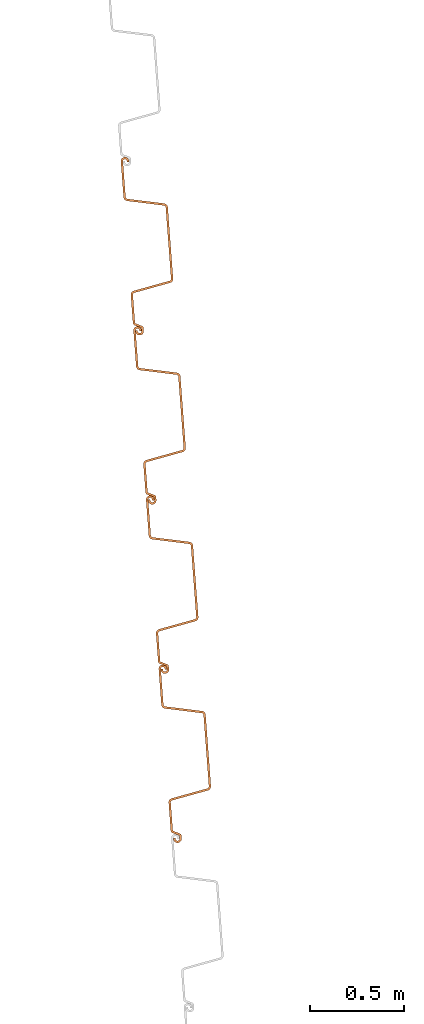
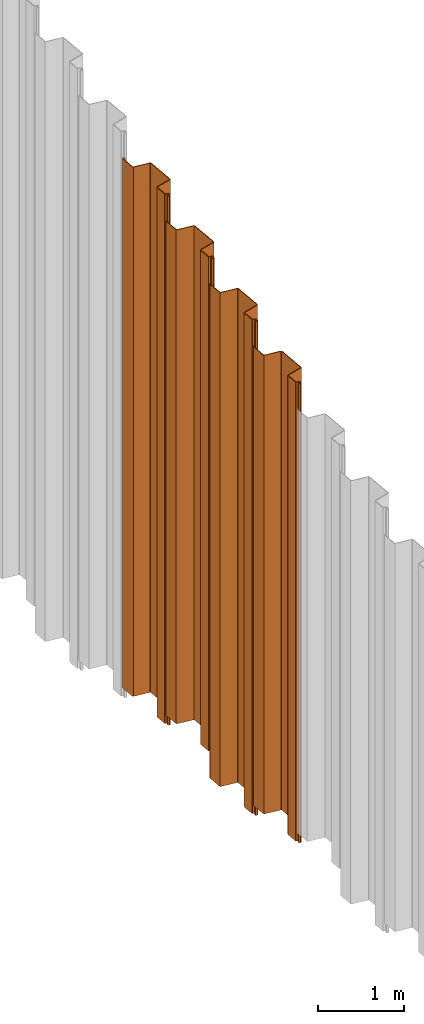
# One storey, part 3 of 12: 4 proxies.
"""IFC2X3 building model written with IfcOpenShell, lengths in millimetres."""

import ifcopenshell
import ifcopenshell.guid

model = None  # the IFC model being written
_history = None  # IfcOwnerHistory: only IFC2X3 demands one
_inside = {}  # id of a spatial element -> (the spatial element, [elements in it])
_under = {}  # id of a project, library or spatial element -> (it, [spatial elements below it])
_declared = {}  # id of a project -> (the project, [libraries it declares])
_typed = {}  # id of a type object -> (the type object, [elements of that type])
_made_of = {}  # id of a material, layer set ... -> (it, [elements and type objects made of it])


def new_model(schema):
    """Start an empty IFC model of exactly this schema.

    Asked for "IFC4X3", IfcOpenShell would pick the latest addendum, in which some entities
    have other attributes; the version numbers below select the first issue.
    IFC2X3 requires an IfcOwnerHistory on every rooted entity: one is made here for all.
    """
    global model, _history
    if schema == "IFC4X3":
        model = ifcopenshell.file(schema_version=(4, 3, 0, 0))
    else:
        model = ifcopenshell.file(schema=schema)
    _inside.clear()
    _under.clear()
    _declared.clear()
    _typed.clear()
    _made_of.clear()
    _history = None
    if model.schema == "IFC2X3":
        org = make("IfcOrganization", Name="unknown")
        user = make(
            "IfcPersonAndOrganization",
            ThePerson=make("IfcPerson", FamilyName="unknown"),
            TheOrganization=org,
        )
        app = make(
            "IfcApplication",
            ApplicationDeveloper=org,
            Version="unknown",
            ApplicationFullName="unknown",
            ApplicationIdentifier="unknown",
        )
        _history = make(
            "IfcOwnerHistory",
            OwningUser=user,
            OwningApplication=app,
            ChangeAction="ADDED",
            CreationDate=0,
        )
    return model


def make(cls, **values):
    """One entity of the class cls with the attributes given. An attribute that is None is left unset."""
    return model.create_entity(
        cls, **{name: value for name, value in values.items() if value is not None}
    )


def entity(cls, *values):
    """Any entity or typed value of the class cls, its attributes in the order of the schema. None: left unset."""
    e = model.create_entity(cls)
    for i, value in enumerate(values):
        if value is not None:
            e[i] = value
    return e


def rooted(cls, **values):
    """An entity with a GlobalId (a new one), such as an element, a storey or a relation."""
    return make(cls, GlobalId=ifcopenshell.guid.new(), OwnerHistory=_history, **values)


def si_unit(unit_type, name, prefix=None):
    """IfcSIUnit, for example si_unit("LENGTHUNIT", "METRE", prefix="MILLI")."""
    return make("IfcSIUnit", UnitType=unit_type, Prefix=prefix, Name=name)


def converted_unit(unit_type, name, factor, base, dimensions=None, offset=None):
    """IfcConversionBasedUnit, such as the inch: factor (a typed value) times the base unit."""
    return make(
        "IfcConversionBasedUnit"
        if offset is None
        else "IfcConversionBasedUnitWithOffset",
        ConversionOffset=offset,
        Dimensions=None
        if dimensions is None
        else entity("IfcDimensionalExponents", *dimensions),
        UnitType=unit_type,
        Name=name,
        ConversionFactor=make(
            "IfcMeasureWithUnit", ValueComponent=factor, UnitComponent=base
        ),
    )


def derived_unit(unit_type, elements):
    """IfcDerivedUnit: a product of units, each with its exponent."""
    return make(
        "IfcDerivedUnit",
        Elements=[
            make("IfcDerivedUnitElement", Unit=unit, Exponent=power)
            for unit, power in elements
        ],
        UnitType=unit_type,
    )


def assignment(units):
    """IfcUnitAssignment: the units of a project."""
    return None if units is None else make("IfcUnitAssignment", Units=units)


def point(xyz):
    """IfcCartesianPoint."""
    return None if xyz is None else make("IfcCartesianPoint", Coordinates=xyz)


def direction(xyz):
    """IfcDirection."""
    return None if xyz is None else make("IfcDirection", DirectionRatios=xyz)


def frame(location, z_axis=None, x_axis=None):
    """IfcAxis2Placement3D, a coordinate frame: its origin and axes. An axis left out is left unset."""
    return make(
        "IfcAxis2Placement3D",
        Location=point(location),
        Axis=direction(z_axis),
        RefDirection=direction(x_axis),
    )


def frame_2d(location, x_axis=None):
    """IfcAxis2Placement2D, a coordinate frame in the plane: its origin and x axis."""
    return make(
        "IfcAxis2Placement2D", Location=point(location), RefDirection=direction(x_axis)
    )


def origin():
    """The frame at (0, 0, 0) with its axes left unset."""
    return frame((0.0, 0.0, 0.0))


def place(relative_to, where):
    """IfcLocalPlacement: puts the frame where relative to a parent placement (None: the world)."""
    return make(
        "IfcLocalPlacement", PlacementRelTo=relative_to, RelativePlacement=where
    )


def context(
    kind, dimensions, precision=None, world=None, true_north=None, identifier=None
):
    """IfcGeometricRepresentationContext, for example the 3D "Model" context."""
    return make(
        "IfcGeometricRepresentationContext",
        ContextIdentifier=identifier,
        ContextType=kind,
        CoordinateSpaceDimension=dimensions,
        Precision=precision,
        WorldCoordinateSystem=world,
        TrueNorth=true_north,
    )


def subcontext(parent, identifier, kind, view, scale=None):
    """IfcGeometricRepresentationSubContext, for example "Body" below "Model"."""
    return make(
        "IfcGeometricRepresentationSubContext",
        ContextIdentifier=identifier,
        ContextType=kind,
        ParentContext=parent,
        TargetScale=scale,
        TargetView=view,
    )


def project(units=None, contexts=None):
    """IfcProject with its units and contexts."""
    return rooted(
        "IfcProject",
        Name="project",
        RepresentationContexts=contexts,
        UnitsInContext=assignment(units),
    )


def spatial(cls, under=None, at=None, **own):
    """A site, building, storey or space (cls), placed at a placement, below another one or the project."""
    s = rooted(cls, ObjectPlacement=at, **own)
    if under is not None:
        _under.setdefault(under.id(), (under, []))[1].append(s)
    return s


def polyline(points):
    """IfcPolyline through the points."""
    return make("IfcPolyline", Points=[point(p) for p in points])


def circle_curve(where, radius):
    """IfcCircle in the frame where."""
    return make("IfcCircle", Position=where, Radius=radius)


def parameter(value):
    """IfcParameterValue: where a trimmed curve begins or ends, as a parameter of its basis curve."""
    return model.create_entity("IfcParameterValue", value)


def trimmed(basis, trim1, trim2, sense, master):
    """IfcTrimmedCurve: the piece of a basis curve between two trims."""
    return make(
        "IfcTrimmedCurve",
        BasisCurve=basis,
        Trim1=trim1,
        Trim2=trim2,
        SenseAgreement=sense,
        MasterRepresentation=master,
    )


def segment(curve, same_sense, transition):
    """IfcCompositeCurveSegment."""
    return make(
        "IfcCompositeCurveSegment",
        Transition=transition,
        SameSense=same_sense,
        ParentCurve=curve,
    )


def composite_curve(segments, self_intersect=None):
    """IfcCompositeCurve: segments joined end to end."""
    return make("IfcCompositeCurve", Segments=segments, SelfIntersect=self_intersect)


def outline(outer, holes=None, kind="AREA"):
    """IfcArbitraryClosedProfileDef: a profile drawn as a closed curve; with holes, ...WithVoids."""
    if holes is None:
        return make("IfcArbitraryClosedProfileDef", ProfileType=kind, OuterCurve=outer)
    return make(
        "IfcArbitraryProfileDefWithVoids",
        ProfileType=kind,
        OuterCurve=outer,
        InnerCurves=holes,
    )


def extrude(swept, where, along, depth):
    """IfcExtrudedAreaSolid: the profile swept, set in the frame where, extruded along a direction by depth."""
    return make(
        "IfcExtrudedAreaSolid",
        SweptArea=swept,
        Position=where,
        ExtrudedDirection=direction(along),
        Depth=depth,
    )


def shape(context_of_items, identifier, shape_type, items):
    """IfcShapeRepresentation: the items that make up one representation, for example the "Body"."""
    return make(
        "IfcShapeRepresentation",
        ContextOfItems=context_of_items,
        RepresentationIdentifier=identifier,
        RepresentationType=shape_type,
        Items=items,
    )


def source(mapping_origin, context_of_items, identifier, shape_type, items):
    """IfcRepresentationMap: a shape defined once, which mapped items show again and again."""
    return make(
        "IfcRepresentationMap",
        MappingOrigin=mapping_origin,
        MappedRepresentation=shape(context_of_items, identifier, shape_type, items),
    )


def transform(
    local_origin,
    x_axis=None,
    y_axis=None,
    z_axis=None,
    scale=None,
    scale2=None,
    scale3=None,
    uniform=True,
):
    """IfcCartesianTransformationOperator3D, or its non-uniform kind. x_axis, y_axis, z_axis: its Axis1, 2, 3."""
    if uniform:
        return make(
            "IfcCartesianTransformationOperator3D",
            Axis1=direction(x_axis),
            Axis2=direction(y_axis),
            LocalOrigin=point(local_origin),
            Scale=scale,
            Axis3=direction(z_axis),
        )
    return make(
        "IfcCartesianTransformationOperator3DnonUniform",
        Axis1=direction(x_axis),
        Axis2=direction(y_axis),
        LocalOrigin=point(local_origin),
        Scale=scale,
        Axis3=direction(z_axis),
        Scale2=scale2,
        Scale3=scale3,
    )


def mapped(mapping_source, mapping_target):
    """IfcMappedItem: shows the shape of a source again, moved by a transform."""
    return make(
        "IfcMappedItem", MappingSource=mapping_source, MappingTarget=mapping_target
    )


def material(Name=None, Category=None):
    """IfcMaterial."""
    return make("IfcMaterial", Name=Name, Category=Category)


def made_of(thing, what):
    """Note that an element or type object is made of a material, layer set ...; save() writes the relation."""
    if what is not None:
        _made_of.setdefault(what.id(), (what, []))[1].append(thing)
    return thing


def type_object(cls, material=None, **own):
    """A type object (cls), such as IfcWallType, which elements share."""
    return made_of(rooted(cls, **own), material)


def type_shapes(of_type, sources):
    """Give a type object the sources (RepresentationMaps) that its elements show as mapped items."""
    of_type.RepresentationMaps = sources


def element(
    cls,
    number,
    at=None,
    inside=None,
    cuts=None,
    type_object=None,
    material=None,
    context=None,
    identifier="Body",
    shape_type=None,
    held_by="IfcProductDefinitionShape",
    body=None,
    shapes=None,
    **own,
):
    """One element of the class cls, such as IfcWall. Its Tag is "e" and its number.

    at: its placement. inside: the storey or other place that contains it. cuts: it is an
    opening in that element (IfcRelVoidsElement). A single representation is given by context,
    identifier, shape_type and body (its items); several are given by shapes. held_by: the class
    of the entity that holds the representations. save() writes the other relations.
    """
    e = rooted(cls, Tag="e%d" % number, ObjectPlacement=at, **own)
    if body is not None:
        shapes = [shape(context, identifier, shape_type, body)]
    if shapes is not None:
        e.Representation = make(held_by, Representations=shapes)
    if inside is not None:
        _inside.setdefault(inside.id(), (inside, []))[1].append(e)
    if cuts is not None:
        rooted(
            "IfcRelVoidsElement", RelatingBuildingElement=cuts, RelatedOpeningElement=e
        )
    if type_object is not None:
        _typed.setdefault(type_object.id(), (type_object, []))[1].append(e)
    return made_of(e, material)


def aggregate(whole, parts):
    """IfcRelAggregates: a whole, such as a stair, and the parts it consists of."""
    return rooted("IfcRelAggregates", RelatingObject=whole, RelatedObjects=parts)


def save(model, path):
    """Write the relations noted so far, then the file.

    IfcRelAggregates (storeys below a building ...), IfcRelContainedInSpatialStructure (elements
    in a storey), IfcRelDefinesByType, IfcRelAssociatesMaterial and IfcRelDeclares: one each for
    every whole, place, type object, material and project.
    """
    for whole, parts in _under.values():
        aggregate(whole, parts)
    for where, things in _inside.values():
        rooted(
            "IfcRelContainedInSpatialStructure",
            RelatedElements=things,
            RelatingStructure=where,
        )
    for kind, things in _typed.values():
        rooted("IfcRelDefinesByType", RelatedObjects=things, RelatingType=kind)
    for what, things in _made_of.values():
        rooted("IfcRelAssociatesMaterial", RelatedObjects=things, RelatingMaterial=what)
    for by, libraries in _declared.values():
        rooted("IfcRelDeclares", RelatingContext=by, RelatedDefinitions=libraries)
    model.write(path)


model = new_model("IFC2X3")

# Units and contexts
model_context = context("Model", 3, precision=0.01, world=origin(), true_north=direction((6.12303176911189e-17, 1.0)))
body_context = subcontext(model_context, "Body", "Model", "MODEL_VIEW")
ifc_project = project(units=[si_unit("LENGTHUNIT", "METRE", prefix="MILLI"), si_unit("AREAUNIT", "SQUARE_METRE"), si_unit("VOLUMEUNIT", "CUBIC_METRE"), converted_unit("PLANEANGLEUNIT", "DEGREE", entity("IfcRatioMeasure", 0.0174532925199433), si_unit("PLANEANGLEUNIT", "RADIAN"), dimensions=[0, 0, 0, 0, 0, 0, 0]), si_unit("MASSUNIT", "GRAM", prefix="KILO"), derived_unit("MASSDENSITYUNIT", [(si_unit("MASSUNIT", "GRAM", prefix="KILO"), 1), (si_unit("LENGTHUNIT", "METRE"), -3)]), derived_unit("MOMENTOFINERTIAUNIT", [(si_unit("LENGTHUNIT", "METRE"), 4)]), si_unit("TIMEUNIT", "SECOND"), si_unit("FREQUENCYUNIT", "HERTZ"), si_unit("THERMODYNAMICTEMPERATUREUNIT", "DEGREE_CELSIUS"), derived_unit("THERMALTRANSMITTANCEUNIT", [(si_unit("MASSUNIT", "GRAM", prefix="KILO"), 1), (si_unit("THERMODYNAMICTEMPERATUREUNIT", "KELVIN"), -1), (si_unit("TIMEUNIT", "SECOND"), -3)]), derived_unit("VOLUMETRICFLOWRATEUNIT", [(si_unit("LENGTHUNIT", "METRE"), 3), (si_unit("TIMEUNIT", "SECOND"), -1)]), si_unit("ELECTRICCURRENTUNIT", "AMPERE"), si_unit("ELECTRICVOLTAGEUNIT", "VOLT"), si_unit("POWERUNIT", "WATT"), si_unit("FORCEUNIT", "NEWTON", prefix="KILO"), si_unit("ILLUMINANCEUNIT", "LUX"), si_unit("LUMINOUSFLUXUNIT", "LUMEN"), si_unit("LUMINOUSINTENSITYUNIT", "CANDELA"), derived_unit("USERDEFINED", [(si_unit("MASSUNIT", "GRAM", prefix="KILO"), -1), (si_unit("LENGTHUNIT", "METRE"), -2), (si_unit("TIMEUNIT", "SECOND"), 3), (si_unit("LUMINOUSFLUXUNIT", "LUMEN"), 1)]), derived_unit("LINEARVELOCITYUNIT", [(si_unit("LENGTHUNIT", "METRE"), 1), (si_unit("TIMEUNIT", "SECOND"), -1)]), si_unit("PRESSUREUNIT", "PASCAL"), derived_unit("USERDEFINED", [(si_unit("LENGTHUNIT", "METRE"), -2), (si_unit("MASSUNIT", "GRAM", prefix="KILO"), 1), (si_unit("TIMEUNIT", "SECOND"), -2)]), derived_unit("LINEARFORCEUNIT", [(si_unit("MASSUNIT", "GRAM", prefix="KILO"), 1), (si_unit("LENGTHUNIT", "METRE"), 1), (si_unit("TIMEUNIT", "SECOND"), -2), (si_unit("LENGTHUNIT", "METRE"), -1)]), derived_unit("PLANARFORCEUNIT", [(si_unit("MASSUNIT", "GRAM", prefix="KILO"), 1), (si_unit("LENGTHUNIT", "METRE"), 1), (si_unit("TIMEUNIT", "SECOND"), -2), (si_unit("LENGTHUNIT", "METRE"), -2)])], contexts=[model_context])

# Site, building, storey
site_placement = place(None, origin())
site = spatial("IfcSite", under=ifc_project, at=site_placement, Name="Default", CompositionType="ELEMENT")
building_placement = place(site_placement, origin())
building = spatial("IfcBuilding", under=site, at=building_placement, CompositionType="ELEMENT")
storey_placement = place(building_placement, frame((0.0, 0.0, 10600.0)))
storey = spatial("IfcBuildingStorey", under=building, at=storey_placement, Name="AP+10.600", CompositionType="ELEMENT", Elevation=10600.0)

# Proxies
ifc_material = material(Name="<Unnamed>")
building_element_proxy_type_1 = type_object("IfcBuildingElementProxyType", Name="鋼矢板10H型:鋼矢板10H型", PredefinedType="NOTDEFINED", material=ifc_material)
shared_shape_1 = source(origin(), body_context, "Body", "SweptSolid", [
    extrude(outline(composite_curve([segment(trimmed(circle_curve(frame_2d((85.3662976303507, 306.644432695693), x_axis=(0.422618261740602, 0.906307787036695)), 13.885714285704), [parameter(24.9999999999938)], [parameter(90.0000000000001)], True, "PARAMETER"), True, "CONTINUOUS"), segment(polyline([(72.7815666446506, 312.512789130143), (9.8129512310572, 177.476157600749)]), True, "CONTINUOUS"), segment(trimmed(circle_curve(frame_2d((29.3891994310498, 168.347603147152), x_axis=(0.422618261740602, 0.906307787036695)), 21.6), [parameter(90.0000000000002)], [parameter(168.69006752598)], True, "PARAMETER"), True, "CONTINUOUS"), segment(polyline([(16.598697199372, 150.941769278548), (175.329723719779, 34.2998683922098)]), True, "CONTINUOUS"), segment(trimmed(circle_curve(frame_2d((168.93447260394, 25.596951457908), x_axis=(0.422618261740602, 0.906307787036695)), 10.7999999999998), [parameter(270.0)], [parameter(348.690067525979)], True, "PARAMETER"), False, "CONTINUOUS"), segment(polyline([(178.722596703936, 21.0326742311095), (18.2974003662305, -323.000269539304)]), True, "CONTINUOUS"), segment(trimmed(circle_curve(frame_2d((8.50927626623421, -318.435992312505), x_axis=(0.422618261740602, 0.906307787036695)), 10.8), [parameter(191.30993247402)], [parameter(269.999999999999)], True, "PARAMETER"), False, "CONTINUOUS"), segment(polyline([(5.95324328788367, -328.929166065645), (-185.429973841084, -282.310113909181)]), True, "CONTINUOUS"), segment(trimmed(circle_curve(frame_2d((-190.542039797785, -303.296461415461), x_axis=(0.422618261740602, 0.906307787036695)), 21.6000000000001), [parameter(11.3099324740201)], [parameter(90.0000000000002)], True, "PARAMETER"), True, "CONTINUOUS"), segment(polyline([(-210.118287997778, -294.167906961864), (-290.330886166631, -466.184378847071)]), True, "CONTINUOUS"), segment(trimmed(circle_curve(frame_2d((-270.754637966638, -475.312933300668), x_axis=(0.422618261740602, 0.906307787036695)), 21.6), [parameter(90.0000000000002)], [parameter(269.999999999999)], True, "PARAMETER"), True, "CONTINUOUS"), segment(polyline([(-251.178389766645, -484.441487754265), (-249.065298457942, -479.909948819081)]), True, "CONTINUOUS"), segment(polyline([(-249.065298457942, -479.909948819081), (-258.853422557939, -475.345671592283)]), True, "CONTINUOUS"), segment(polyline([(-258.853422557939, -475.345671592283), (-260.966513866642, -479.877210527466)]), True, "CONTINUOUS"), segment(trimmed(circle_curve(frame_2d((-270.754637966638, -475.312933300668), x_axis=(0.422618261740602, 0.906307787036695)), 10.8), [parameter(90.0000000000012)], [parameter(270.0)], True, "PARAMETER"), False, "CONTINUOUS"), segment(polyline([(-280.542762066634, -470.748656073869), (-200.330163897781, -298.732184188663)]), True, "CONTINUOUS"), segment(trimmed(circle_curve(frame_2d((-190.542039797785, -303.296461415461), x_axis=(0.422618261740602, 0.906307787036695)), 10.8), [parameter(11.3099324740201)], [parameter(89.9999999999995)], True, "PARAMETER"), False, "CONTINUOUS"), segment(polyline([(-187.986006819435, -292.803287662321), (3.39721030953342, -339.422339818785)]), True, "CONTINUOUS"), segment(trimmed(circle_curve(frame_2d((8.50927626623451, -318.435992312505), x_axis=(0.422618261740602, 0.906307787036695)), 21.6), [parameter(191.30993247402)], [parameter(270.0)], True, "PARAMETER"), True, "CONTINUOUS"), segment(polyline([(28.0855244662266, -327.564546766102), (188.510720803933, 16.4683970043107)]), True, "CONTINUOUS"), segment(trimmed(circle_curve(frame_2d((168.93447260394, 25.5969514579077), x_axis=(0.422618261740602, 0.906307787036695)), 21.6), [parameter(270.0)], [parameter(348.69006752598)], True, "PARAMETER"), True, "CONTINUOUS"), segment(polyline([(181.724974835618, 43.0027853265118), (22.9939483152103, 159.644686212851)]), True, "CONTINUOUS"), segment(trimmed(circle_curve(frame_2d((29.3891994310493, 168.347603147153), x_axis=(0.422618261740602, 0.906307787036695)), 10.7999999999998), [parameter(89.9999999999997)], [parameter(168.690067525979)], True, "PARAMETER"), False, "CONTINUOUS"), segment(polyline([(19.6010753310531, 172.911880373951), (82.5696907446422, 307.948511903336)]), True, "CONTINUOUS"), segment(trimmed(circle_curve(frame_2d((85.3662976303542, 306.64443269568), x_axis=(0.422618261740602, 0.906307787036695)), 3.08571428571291), [parameter(25.0000000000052)], [parameter(90.0000000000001)], True, "PARAMETER"), False, "CONTINUOUS"), segment(polyline([(85.3662976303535, 309.730146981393), (122.220231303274, 309.730146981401)]), True, "CONTINUOUS"), segment(trimmed(circle_curve(frame_2d((122.220231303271, 323.615861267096), x_axis=(0.422618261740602, 0.906307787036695)), 13.8857142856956), [parameter(205.000000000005)], [parameter(270.0)], True, "PARAMETER"), True, "CONTINUOUS"), segment(polyline([(134.804962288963, 317.747504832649), (141.079261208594, 331.202782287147)]), True, "CONTINUOUS"), segment(trimmed(circle_curve(frame_2d((121.503013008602, 340.331336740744), x_axis=(0.422618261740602, 0.906307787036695)), 21.6), [parameter(270.0)], [parameter(90.0000000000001)], True, "PARAMETER"), True, "CONTINUOUS"), segment(polyline([(101.926764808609, 349.459891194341), (99.8136734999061, 344.928352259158)]), True, "CONTINUOUS"), segment(polyline([(99.8136734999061, 344.928352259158), (109.601797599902, 340.364075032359)]), True, "CONTINUOUS"), segment(polyline([(109.601797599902, 340.364075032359), (111.714888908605, 344.895613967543)]), True, "CONTINUOUS"), segment(trimmed(circle_curve(frame_2d((121.503013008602, 340.331336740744), x_axis=(0.422618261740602, 0.906307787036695)), 10.8), [parameter(270.0)], [parameter(89.9999999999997)], True, "PARAMETER"), False, "CONTINUOUS"), segment(polyline([(131.291137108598, 335.767059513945), (125.01683818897, 322.311782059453)]), True, "CONTINUOUS"), segment(trimmed(circle_curve(frame_2d((122.220231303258, 323.615861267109), x_axis=(0.422618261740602, 0.906307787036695)), 3.08571428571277), [parameter(204.999999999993)], [parameter(270.0)], True, "PARAMETER"), False, "CONTINUOUS"), segment(polyline([(122.220231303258, 320.530146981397), (85.3662976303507, 320.530146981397)]), True, "CONTINUOUS")], self_intersect=False)), frame((95.205667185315, -48.8888888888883, -6500.0), z_axis=(0.0, 0.0, -1.0), x_axis=(0.4226182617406, 0.906307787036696, 0.0)), (0.0, 0.0, -1.0), 6500.0),
])
type_shapes(building_element_proxy_type_1, [shared_shape_1])
proxy_1_placement = place(storey_placement, frame((-88925.2401514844, -13014.0310432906, 1486.75268431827), z_axis=(0.0, 0.0, 1.0), x_axis=(0.0743258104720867, -0.997234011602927, 0.0)))
element("IfcBuildingElementProxy", 1, at=proxy_1_placement, inside=storey, type_object=building_element_proxy_type_1, material=ifc_material, Name="鋼矢板10H型:鋼矢板10H型", ObjectType="鋼矢板10H型:鋼矢板10H型", context=body_context, shape_type="MappedRepresentation", body=[
    mapped(shared_shape_1, transform((0.0, 0.0, 0.0), scale=1.0)),
])
building_element_proxy_type_2 = type_object("IfcBuildingElementProxyType", Name="鋼矢板10H型:鋼矢板10H型", PredefinedType="NOTDEFINED", material=ifc_material)
shared_shape_2 = source(origin(), body_context, "Body", "SweptSolid", [
    extrude(outline(composite_curve([segment(trimmed(circle_curve(frame_2d((85.3662976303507, 306.644432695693), x_axis=(0.422618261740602, 0.906307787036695)), 13.885714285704), [parameter(24.9999999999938)], [parameter(90.0000000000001)], True, "PARAMETER"), True, "CONTINUOUS"), segment(polyline([(72.7815666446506, 312.512789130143), (9.8129512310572, 177.476157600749)]), True, "CONTINUOUS"), segment(trimmed(circle_curve(frame_2d((29.3891994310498, 168.347603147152), x_axis=(0.422618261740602, 0.906307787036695)), 21.6), [parameter(90.0000000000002)], [parameter(168.69006752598)], True, "PARAMETER"), True, "CONTINUOUS"), segment(polyline([(16.598697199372, 150.941769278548), (175.329723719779, 34.2998683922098)]), True, "CONTINUOUS"), segment(trimmed(circle_curve(frame_2d((168.93447260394, 25.596951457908), x_axis=(0.422618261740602, 0.906307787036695)), 10.7999999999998), [parameter(270.0)], [parameter(348.690067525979)], True, "PARAMETER"), False, "CONTINUOUS"), segment(polyline([(178.722596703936, 21.0326742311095), (18.2974003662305, -323.000269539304)]), True, "CONTINUOUS"), segment(trimmed(circle_curve(frame_2d((8.50927626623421, -318.435992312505), x_axis=(0.422618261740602, 0.906307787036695)), 10.8), [parameter(191.30993247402)], [parameter(269.999999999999)], True, "PARAMETER"), False, "CONTINUOUS"), segment(polyline([(5.95324328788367, -328.929166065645), (-185.429973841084, -282.310113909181)]), True, "CONTINUOUS"), segment(trimmed(circle_curve(frame_2d((-190.542039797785, -303.296461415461), x_axis=(0.422618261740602, 0.906307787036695)), 21.6000000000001), [parameter(11.3099324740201)], [parameter(90.0000000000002)], True, "PARAMETER"), True, "CONTINUOUS"), segment(polyline([(-210.118287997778, -294.167906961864), (-290.330886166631, -466.184378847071)]), True, "CONTINUOUS"), segment(trimmed(circle_curve(frame_2d((-270.754637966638, -475.312933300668), x_axis=(0.422618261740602, 0.906307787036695)), 21.6), [parameter(90.0000000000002)], [parameter(269.999999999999)], True, "PARAMETER"), True, "CONTINUOUS"), segment(polyline([(-251.178389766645, -484.441487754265), (-249.065298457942, -479.909948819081)]), True, "CONTINUOUS"), segment(polyline([(-249.065298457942, -479.909948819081), (-258.853422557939, -475.345671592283)]), True, "CONTINUOUS"), segment(polyline([(-258.853422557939, -475.345671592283), (-260.966513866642, -479.877210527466)]), True, "CONTINUOUS"), segment(trimmed(circle_curve(frame_2d((-270.754637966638, -475.312933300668), x_axis=(0.422618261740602, 0.906307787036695)), 10.8), [parameter(90.0000000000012)], [parameter(270.0)], True, "PARAMETER"), False, "CONTINUOUS"), segment(polyline([(-280.542762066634, -470.748656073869), (-200.330163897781, -298.732184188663)]), True, "CONTINUOUS"), segment(trimmed(circle_curve(frame_2d((-190.542039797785, -303.296461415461), x_axis=(0.422618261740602, 0.906307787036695)), 10.8), [parameter(11.3099324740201)], [parameter(89.9999999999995)], True, "PARAMETER"), False, "CONTINUOUS"), segment(polyline([(-187.986006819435, -292.803287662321), (3.39721030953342, -339.422339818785)]), True, "CONTINUOUS"), segment(trimmed(circle_curve(frame_2d((8.50927626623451, -318.435992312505), x_axis=(0.422618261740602, 0.906307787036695)), 21.6), [parameter(191.30993247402)], [parameter(270.0)], True, "PARAMETER"), True, "CONTINUOUS"), segment(polyline([(28.0855244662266, -327.564546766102), (188.510720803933, 16.4683970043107)]), True, "CONTINUOUS"), segment(trimmed(circle_curve(frame_2d((168.93447260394, 25.5969514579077), x_axis=(0.422618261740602, 0.906307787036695)), 21.6), [parameter(270.0)], [parameter(348.69006752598)], True, "PARAMETER"), True, "CONTINUOUS"), segment(polyline([(181.724974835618, 43.0027853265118), (22.9939483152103, 159.644686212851)]), True, "CONTINUOUS"), segment(trimmed(circle_curve(frame_2d((29.3891994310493, 168.347603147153), x_axis=(0.422618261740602, 0.906307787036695)), 10.7999999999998), [parameter(89.9999999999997)], [parameter(168.690067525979)], True, "PARAMETER"), False, "CONTINUOUS"), segment(polyline([(19.6010753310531, 172.911880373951), (82.5696907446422, 307.948511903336)]), True, "CONTINUOUS"), segment(trimmed(circle_curve(frame_2d((85.3662976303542, 306.64443269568), x_axis=(0.422618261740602, 0.906307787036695)), 3.08571428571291), [parameter(25.0000000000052)], [parameter(90.0000000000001)], True, "PARAMETER"), False, "CONTINUOUS"), segment(polyline([(85.3662976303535, 309.730146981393), (122.220231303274, 309.730146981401)]), True, "CONTINUOUS"), segment(trimmed(circle_curve(frame_2d((122.220231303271, 323.615861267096), x_axis=(0.422618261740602, 0.906307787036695)), 13.8857142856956), [parameter(205.000000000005)], [parameter(270.0)], True, "PARAMETER"), True, "CONTINUOUS"), segment(polyline([(134.804962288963, 317.747504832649), (141.079261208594, 331.202782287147)]), True, "CONTINUOUS"), segment(trimmed(circle_curve(frame_2d((121.503013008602, 340.331336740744), x_axis=(0.422618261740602, 0.906307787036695)), 21.6), [parameter(270.0)], [parameter(90.0000000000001)], True, "PARAMETER"), True, "CONTINUOUS"), segment(polyline([(101.926764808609, 349.459891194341), (99.8136734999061, 344.928352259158)]), True, "CONTINUOUS"), segment(polyline([(99.8136734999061, 344.928352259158), (109.601797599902, 340.364075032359)]), True, "CONTINUOUS"), segment(polyline([(109.601797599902, 340.364075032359), (111.714888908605, 344.895613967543)]), True, "CONTINUOUS"), segment(trimmed(circle_curve(frame_2d((121.503013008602, 340.331336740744), x_axis=(0.422618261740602, 0.906307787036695)), 10.8), [parameter(270.0)], [parameter(89.9999999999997)], True, "PARAMETER"), False, "CONTINUOUS"), segment(polyline([(131.291137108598, 335.767059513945), (125.01683818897, 322.311782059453)]), True, "CONTINUOUS"), segment(trimmed(circle_curve(frame_2d((122.220231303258, 323.615861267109), x_axis=(0.422618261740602, 0.906307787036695)), 3.08571428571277), [parameter(204.999999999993)], [parameter(270.0)], True, "PARAMETER"), False, "CONTINUOUS"), segment(polyline([(122.220231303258, 320.530146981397), (85.3662976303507, 320.530146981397)]), True, "CONTINUOUS")], self_intersect=False)), frame((95.205667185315, -48.8888888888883, -7000.0), z_axis=(0.0, 0.0, -1.0), x_axis=(0.4226182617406, 0.906307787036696, 0.0)), (0.0, 0.0, -1.0), 7000.0),
])
type_shapes(building_element_proxy_type_2, [shared_shape_2])
for number, where, z_axis, x_axis in (
    (2, (-89059.0266103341, -11219.0098224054, 2222.55268431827), (0.0, 0.0, 1.0), (0.0743258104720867, -0.997234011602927, 0.0)),
    (3, (-88992.1333809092, -12116.520432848, 1854.65268431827), (0.0, 0.0, 1.0), (0.0743258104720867, -0.997234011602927, 0.0)),
):
    element("IfcBuildingElementProxy", number, at=place(storey_placement, frame(where, z_axis=z_axis, x_axis=x_axis)), inside=storey, type_object=building_element_proxy_type_2, material=ifc_material, Name="鋼矢板10H型:鋼矢板10H型", ObjectType="鋼矢板10H型:鋼矢板10H型", context=body_context, shape_type="MappedRepresentation", body=[
        mapped(shared_shape_2, transform((0.0, 0.0, 0.0), scale=1.0)),
    ])
building_element_proxy_type_3 = type_object("IfcBuildingElementProxyType", Name="鋼矢板10H型:鋼矢板10H型", PredefinedType="NOTDEFINED", material=ifc_material)
shared_shape_3 = source(origin(), body_context, "Body", "SweptSolid", [
    extrude(outline(composite_curve([segment(trimmed(circle_curve(frame_2d((85.3662976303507, 306.644432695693), x_axis=(0.422618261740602, 0.906307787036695)), 13.885714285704), [parameter(24.9999999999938)], [parameter(90.0000000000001)], True, "PARAMETER"), True, "CONTINUOUS"), segment(polyline([(72.7815666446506, 312.512789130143), (9.8129512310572, 177.476157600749)]), True, "CONTINUOUS"), segment(trimmed(circle_curve(frame_2d((29.3891994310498, 168.347603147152), x_axis=(0.422618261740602, 0.906307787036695)), 21.6), [parameter(90.0000000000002)], [parameter(168.69006752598)], True, "PARAMETER"), True, "CONTINUOUS"), segment(polyline([(16.598697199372, 150.941769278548), (175.329723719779, 34.2998683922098)]), True, "CONTINUOUS"), segment(trimmed(circle_curve(frame_2d((168.93447260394, 25.596951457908), x_axis=(0.422618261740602, 0.906307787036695)), 10.7999999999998), [parameter(270.0)], [parameter(348.690067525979)], True, "PARAMETER"), False, "CONTINUOUS"), segment(polyline([(178.722596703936, 21.0326742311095), (18.2974003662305, -323.000269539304)]), True, "CONTINUOUS"), segment(trimmed(circle_curve(frame_2d((8.50927626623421, -318.435992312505), x_axis=(0.422618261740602, 0.906307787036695)), 10.8), [parameter(191.30993247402)], [parameter(269.999999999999)], True, "PARAMETER"), False, "CONTINUOUS"), segment(polyline([(5.95324328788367, -328.929166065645), (-185.429973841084, -282.310113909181)]), True, "CONTINUOUS"), segment(trimmed(circle_curve(frame_2d((-190.542039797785, -303.296461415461), x_axis=(0.422618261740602, 0.906307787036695)), 21.6000000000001), [parameter(11.3099324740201)], [parameter(90.0000000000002)], True, "PARAMETER"), True, "CONTINUOUS"), segment(polyline([(-210.118287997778, -294.167906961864), (-290.330886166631, -466.184378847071)]), True, "CONTINUOUS"), segment(trimmed(circle_curve(frame_2d((-270.754637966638, -475.312933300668), x_axis=(0.422618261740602, 0.906307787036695)), 21.6), [parameter(90.0000000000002)], [parameter(269.999999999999)], True, "PARAMETER"), True, "CONTINUOUS"), segment(polyline([(-251.178389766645, -484.441487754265), (-249.065298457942, -479.909948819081)]), True, "CONTINUOUS"), segment(polyline([(-249.065298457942, -479.909948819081), (-258.853422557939, -475.345671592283)]), True, "CONTINUOUS"), segment(polyline([(-258.853422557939, -475.345671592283), (-260.966513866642, -479.877210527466)]), True, "CONTINUOUS"), segment(trimmed(circle_curve(frame_2d((-270.754637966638, -475.312933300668), x_axis=(0.422618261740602, 0.906307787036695)), 10.8), [parameter(90.0000000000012)], [parameter(270.0)], True, "PARAMETER"), False, "CONTINUOUS"), segment(polyline([(-280.542762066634, -470.748656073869), (-200.330163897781, -298.732184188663)]), True, "CONTINUOUS"), segment(trimmed(circle_curve(frame_2d((-190.542039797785, -303.296461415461), x_axis=(0.422618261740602, 0.906307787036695)), 10.8), [parameter(11.3099324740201)], [parameter(89.9999999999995)], True, "PARAMETER"), False, "CONTINUOUS"), segment(polyline([(-187.986006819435, -292.803287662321), (3.39721030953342, -339.422339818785)]), True, "CONTINUOUS"), segment(trimmed(circle_curve(frame_2d((8.50927626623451, -318.435992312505), x_axis=(0.422618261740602, 0.906307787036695)), 21.6), [parameter(191.30993247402)], [parameter(270.0)], True, "PARAMETER"), True, "CONTINUOUS"), segment(polyline([(28.0855244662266, -327.564546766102), (188.510720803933, 16.4683970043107)]), True, "CONTINUOUS"), segment(trimmed(circle_curve(frame_2d((168.93447260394, 25.5969514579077), x_axis=(0.422618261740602, 0.906307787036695)), 21.6), [parameter(270.0)], [parameter(348.69006752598)], True, "PARAMETER"), True, "CONTINUOUS"), segment(polyline([(181.724974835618, 43.0027853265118), (22.9939483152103, 159.644686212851)]), True, "CONTINUOUS"), segment(trimmed(circle_curve(frame_2d((29.3891994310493, 168.347603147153), x_axis=(0.422618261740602, 0.906307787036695)), 10.7999999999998), [parameter(89.9999999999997)], [parameter(168.690067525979)], True, "PARAMETER"), False, "CONTINUOUS"), segment(polyline([(19.6010753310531, 172.911880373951), (82.5696907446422, 307.948511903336)]), True, "CONTINUOUS"), segment(trimmed(circle_curve(frame_2d((85.3662976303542, 306.64443269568), x_axis=(0.422618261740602, 0.906307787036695)), 3.08571428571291), [parameter(25.0000000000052)], [parameter(90.0000000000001)], True, "PARAMETER"), False, "CONTINUOUS"), segment(polyline([(85.3662976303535, 309.730146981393), (122.220231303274, 309.730146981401)]), True, "CONTINUOUS"), segment(trimmed(circle_curve(frame_2d((122.220231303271, 323.615861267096), x_axis=(0.422618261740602, 0.906307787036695)), 13.8857142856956), [parameter(205.000000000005)], [parameter(270.0)], True, "PARAMETER"), True, "CONTINUOUS"), segment(polyline([(134.804962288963, 317.747504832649), (141.079261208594, 331.202782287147)]), True, "CONTINUOUS"), segment(trimmed(circle_curve(frame_2d((121.503013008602, 340.331336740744), x_axis=(0.422618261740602, 0.906307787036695)), 21.6), [parameter(270.0)], [parameter(90.0000000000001)], True, "PARAMETER"), True, "CONTINUOUS"), segment(polyline([(101.926764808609, 349.459891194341), (99.8136734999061, 344.928352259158)]), True, "CONTINUOUS"), segment(polyline([(99.8136734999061, 344.928352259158), (109.601797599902, 340.364075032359)]), True, "CONTINUOUS"), segment(polyline([(109.601797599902, 340.364075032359), (111.714888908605, 344.895613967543)]), True, "CONTINUOUS"), segment(trimmed(circle_curve(frame_2d((121.503013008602, 340.331336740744), x_axis=(0.422618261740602, 0.906307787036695)), 10.8), [parameter(270.0)], [parameter(89.9999999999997)], True, "PARAMETER"), False, "CONTINUOUS"), segment(polyline([(131.291137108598, 335.767059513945), (125.01683818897, 322.311782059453)]), True, "CONTINUOUS"), segment(trimmed(circle_curve(frame_2d((122.220231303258, 323.615861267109), x_axis=(0.422618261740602, 0.906307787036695)), 3.08571428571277), [parameter(204.999999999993)], [parameter(270.0)], True, "PARAMETER"), False, "CONTINUOUS"), segment(polyline([(122.220231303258, 320.530146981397), (85.3662976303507, 320.530146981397)]), True, "CONTINUOUS")], self_intersect=False)), frame((95.205667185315, -48.8888888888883, -7500.0), z_axis=(0.0, 0.0, -1.0), x_axis=(0.4226182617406, 0.906307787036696, 0.0)), (0.0, 0.0, -1.0), 7500.0),
])
type_shapes(building_element_proxy_type_3, [shared_shape_3])
proxy_2_placement = place(storey_placement, frame((-89125.919839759, -10321.4992119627, 2590.45268431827), z_axis=(0.0, 0.0, 1.0), x_axis=(0.0743258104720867, -0.997234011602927, 0.0)))
element("IfcBuildingElementProxy", 4, at=proxy_2_placement, inside=storey, type_object=building_element_proxy_type_3, material=ifc_material, Name="鋼矢板10H型:鋼矢板10H型", ObjectType="鋼矢板10H型:鋼矢板10H型", context=body_context, shape_type="MappedRepresentation", body=[
    mapped(shared_shape_3, transform((0.0, 0.0, 0.0), scale=1.0)),
])

save(model, "model.ifc")
